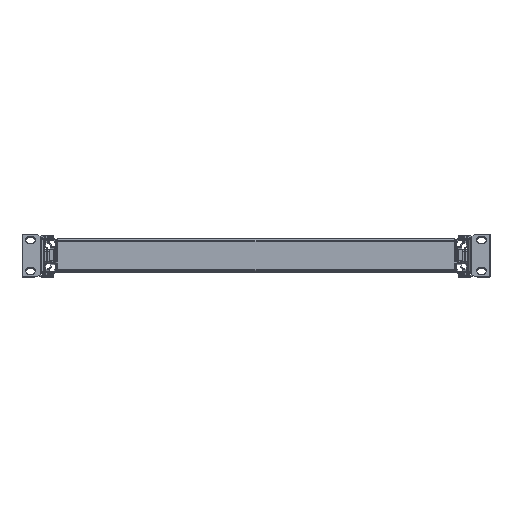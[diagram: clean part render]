
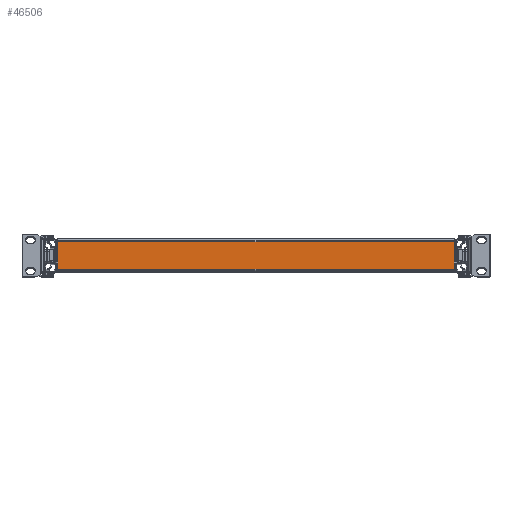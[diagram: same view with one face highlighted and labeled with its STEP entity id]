
A CAD part, top view. The second image highlights one B-rep face of the part: STEP entity #46506.
In plain terms, the highlighted planar face has unit normal (0, 0, 1).
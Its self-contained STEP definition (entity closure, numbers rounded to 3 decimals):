
#3181 = VERTEX_POINT ( 'NONE', #21858 ) ;
#3504 = DIRECTION ( 'NONE',  ( 0., 0., 1. ) ) ;
#4296 = CARTESIAN_POINT ( 'NONE',  ( 204.3, -29.7, 325. ) ) ;
#6393 = VERTEX_POINT ( 'NONE', #4296 ) ;
#7044 = EDGE_LOOP ( 'NONE', ( #33135, #34328, #34644, #34943 ) ) ;
#7500 = DIRECTION ( 'NONE',  ( -1., 0., 0. ) ) ;
#7845 = VECTOR ( 'NONE', #17883, 1000. ) ;
#8300 = PLANE ( 'NONE',  #48928 ) ;
#10947 = EDGE_CURVE ( 'NONE', #46710, #3181, #13165, .T. ) ;
#13135 = FACE_OUTER_BOUND ( 'NONE', #7044, .T. ) ;
#13165 = LINE ( 'NONE', #46658, #24037 ) ;
#13969 = VECTOR ( 'NONE', #31896, 1000. ) ;
#17883 = DIRECTION ( 'NONE',  ( 1., 0., 0. ) ) ;
#18451 = DIRECTION ( 'NONE',  ( 0., -1., 0. ) ) ;
#21858 = CARTESIAN_POINT ( 'NONE',  ( -204.3, -1.5, 325. ) ) ;
#22029 = CARTESIAN_POINT ( 'NONE',  ( -204.3, -1.5, 325. ) ) ;
#22543 = CARTESIAN_POINT ( 'NONE',  ( -207.2, 0., 325. ) ) ;
#24037 = VECTOR ( 'NONE', #7500, 1000. ) ;
#27590 = CARTESIAN_POINT ( 'NONE',  ( -204.3, -29.7, 325. ) ) ;
#28782 = CARTESIAN_POINT ( 'NONE',  ( 204.3, -1.5, 325. ) ) ;
#31896 = DIRECTION ( 'NONE',  ( 0., -1., 0. ) ) ;
#32197 = VERTEX_POINT ( 'NONE', #27590 ) ;
#33135 = ORIENTED_EDGE ( 'NONE', *, *, #59815, .T. ) ;
#34328 = ORIENTED_EDGE ( 'NONE', *, *, #38105, .T. ) ;
#34644 = ORIENTED_EDGE ( 'NONE', *, *, #50545, .T. ) ;
#34943 = ORIENTED_EDGE ( 'NONE', *, *, #10947, .T. ) ;
#38105 = EDGE_CURVE ( 'NONE', #32197, #6393, #60207, .T. ) ;
#45756 = VECTOR ( 'NONE', #61702, 1000. ) ;
#46506 = ADVANCED_FACE ( 'NONE', ( #13135 ), #8300, .T. ) ;
#46658 = CARTESIAN_POINT ( 'NONE',  ( -207.2, -1.5, 325. ) ) ;
#46710 = VERTEX_POINT ( 'NONE', #28782 ) ;
#47023 = LINE ( 'NONE', #22029, #13969 ) ;
#48928 = AXIS2_PLACEMENT_3D ( 'NONE', #22543, #3504, #18451 ) ;
#50545 = EDGE_CURVE ( 'NONE', #6393, #46710, #53509, .T. ) ;
#52745 = CARTESIAN_POINT ( 'NONE',  ( -204.3, -29.7, 325. ) ) ;
#53509 = LINE ( 'NONE', #61917, #45756 ) ;
#59815 = EDGE_CURVE ( 'NONE', #3181, #32197, #47023, .T. ) ;
#60207 = LINE ( 'NONE', #52745, #7845 ) ;
#61702 = DIRECTION ( 'NONE',  ( 0., 1., 0. ) ) ;
#61917 = CARTESIAN_POINT ( 'NONE',  ( 204.3, -32.6, 325. ) ) ;
